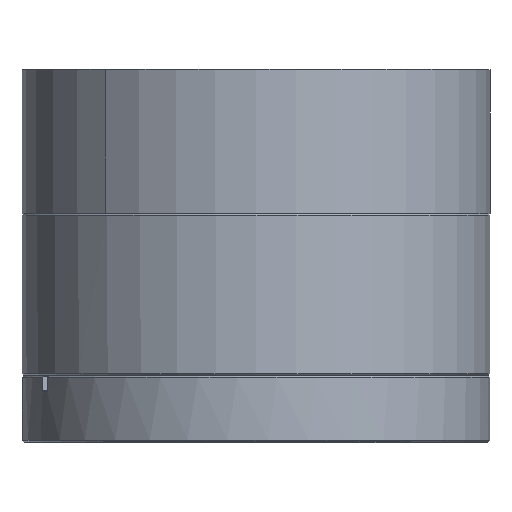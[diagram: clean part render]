
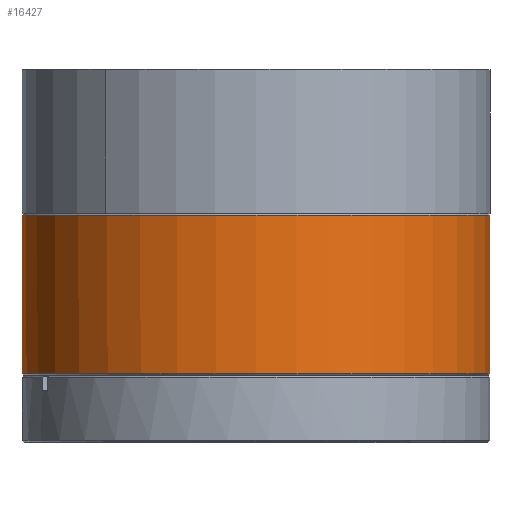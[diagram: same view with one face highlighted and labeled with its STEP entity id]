
A CAD part, top view. The second image highlights one B-rep face of the part: STEP entity #16427.
In plain terms, the highlighted cylindrical face has radius 65 mm (diameter 130 mm), a partial arc.
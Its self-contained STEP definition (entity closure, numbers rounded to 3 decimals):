
#689 = LINE ( 'NONE', #4444, #6066 ) ;
#883 = DIRECTION ( 'NONE',  ( 0., -1., 0. ) ) ;
#1120 = DIRECTION ( 'NONE',  ( 0., 0., 1. ) ) ;
#1178 = DIRECTION ( 'NONE',  ( 0., 1., 0. ) ) ;
#1267 = AXIS2_PLACEMENT_3D ( 'NONE', #3022, #8531, #13120 ) ;
#1291 = DIRECTION ( 'NONE',  ( 0., 0., -1. ) ) ;
#1527 = CARTESIAN_POINT ( 'NONE',  ( 64.992, 0.5, 1. ) ) ;
#2496 = ORIENTED_EDGE ( 'NONE', *, *, #2634, .T. ) ;
#2634 = EDGE_CURVE ( 'NONE', #12306, #9614, #13942, .T. ) ;
#2666 = CARTESIAN_POINT ( 'NONE',  ( 64.992, 0.5, -1. ) ) ;
#3022 = CARTESIAN_POINT ( 'NONE',  ( 0., 1., 0. ) ) ;
#3131 = CARTESIAN_POINT ( 'NONE',  ( -25., 44.5, -60. ) ) ;
#3460 = DIRECTION ( 'NONE',  ( 0., 0., 1. ) ) ;
#3638 = DIRECTION ( 'NONE',  ( 0., 1., 0. ) ) ;
#3706 = CARTESIAN_POINT ( 'NONE',  ( 25., 0., -60. ) ) ;
#3803 = CARTESIAN_POINT ( 'NONE',  ( 0., 0.5, 0. ) ) ;
#3828 = VERTEX_POINT ( 'NONE', #17229 ) ;
#3869 = CIRCLE ( 'NONE', #8178, 65. ) ;
#3893 = FACE_OUTER_BOUND ( 'NONE', #10221, .T. ) ;
#3912 = CARTESIAN_POINT ( 'NONE',  ( 0., 45., 0. ) ) ;
#3978 = CARTESIAN_POINT ( 'NONE',  ( 0., 0.5, 0. ) ) ;
#4444 = CARTESIAN_POINT ( 'NONE',  ( -25., 0., -60. ) ) ;
#4452 = EDGE_CURVE ( 'NONE', #14381, #13808, #9751, .T. ) ;
#4533 = CARTESIAN_POINT ( 'NONE',  ( 0., 0.5, 0. ) ) ;
#5447 = CARTESIAN_POINT ( 'NONE',  ( 64.992, 1., -1. ) ) ;
#5540 = CIRCLE ( 'NONE', #7346, 65. ) ;
#5630 = LINE ( 'NONE', #13728, #10784 ) ;
#5636 = CARTESIAN_POINT ( 'NONE',  ( 0., 44.5, 0. ) ) ;
#5774 = ORIENTED_EDGE ( 'NONE', *, *, #8973, .T. ) ;
#5790 = CIRCLE ( 'NONE', #10205, 65. ) ;
#6066 = VECTOR ( 'NONE', #7079, 1000. ) ;
#7012 = DIRECTION ( 'NONE',  ( 0., 0., 1. ) ) ;
#7079 = DIRECTION ( 'NONE',  ( 0., 1., 0. ) ) ;
#7105 = EDGE_CURVE ( 'NONE', #13808, #15011, #3869, .T. ) ;
#7260 = EDGE_CURVE ( 'NONE', #10481, #17739, #16771, .T. ) ;
#7346 = AXIS2_PLACEMENT_3D ( 'NONE', #4533, #3638, #3460 ) ;
#7372 = VECTOR ( 'NONE', #11824, 1000. ) ;
#7797 = EDGE_CURVE ( 'NONE', #10481, #3828, #15261, .T. ) ;
#8005 = CYLINDRICAL_SURFACE ( 'NONE', #16740, 65. ) ;
#8178 = AXIS2_PLACEMENT_3D ( 'NONE', #5636, #15257, #7012 ) ;
#8454 = AXIS2_PLACEMENT_3D ( 'NONE', #3978, #9357, #1120 ) ;
#8531 = DIRECTION ( 'NONE',  ( 0., -1., 0. ) ) ;
#8973 = EDGE_CURVE ( 'NONE', #12344, #12306, #5540, .T. ) ;
#9136 = CARTESIAN_POINT ( 'NONE',  ( 64.992, 45., -1. ) ) ;
#9357 = DIRECTION ( 'NONE',  ( 0., 1., 0. ) ) ;
#9501 = CARTESIAN_POINT ( 'NONE',  ( 25., 44.5, -60. ) ) ;
#9614 = VERTEX_POINT ( 'NONE', #1527 ) ;
#9751 = LINE ( 'NONE', #3706, #7372 ) ;
#10205 = AXIS2_PLACEMENT_3D ( 'NONE', #3803, #1178, #17680 ) ;
#10221 = EDGE_LOOP ( 'NONE', ( #15770, #17093, #10809, #16971, #11111, #15374, #5774, #2496, #10591 ) ) ;
#10481 = VERTEX_POINT ( 'NONE', #5447 ) ;
#10591 = ORIENTED_EDGE ( 'NONE', *, *, #16603, .T. ) ;
#10784 = VECTOR ( 'NONE', #11186, 1000. ) ;
#10809 = ORIENTED_EDGE ( 'NONE', *, *, #17737, .T. ) ;
#11111 = ORIENTED_EDGE ( 'NONE', *, *, #7105, .T. ) ;
#11186 = DIRECTION ( 'NONE',  ( 0., 1., 0. ) ) ;
#11704 = EDGE_CURVE ( 'NONE', #12344, #15011, #689, .T. ) ;
#11824 = DIRECTION ( 'NONE',  ( 0., 1., 0. ) ) ;
#12306 = VERTEX_POINT ( 'NONE', #12864 ) ;
#12344 = VERTEX_POINT ( 'NONE', #16881 ) ;
#12864 = CARTESIAN_POINT ( 'NONE',  ( 0., 0.5, 65. ) ) ;
#13120 = DIRECTION ( 'NONE',  ( 0., 0., -1. ) ) ;
#13660 = DIRECTION ( 'NONE',  ( 0., -1., 0. ) ) ;
#13728 = CARTESIAN_POINT ( 'NONE',  ( 64.992, 45., 1. ) ) ;
#13808 = VERTEX_POINT ( 'NONE', #9501 ) ;
#13942 = CIRCLE ( 'NONE', #8454, 65. ) ;
#14381 = VERTEX_POINT ( 'NONE', #15979 ) ;
#15011 = VERTEX_POINT ( 'NONE', #3131 ) ;
#15257 = DIRECTION ( 'NONE',  ( 0., -1., 0. ) ) ;
#15261 = CIRCLE ( 'NONE', #1267, 65. ) ;
#15374 = ORIENTED_EDGE ( 'NONE', *, *, #11704, .F. ) ;
#15770 = ORIENTED_EDGE ( 'NONE', *, *, #7797, .F. ) ;
#15979 = CARTESIAN_POINT ( 'NONE',  ( 25., 0.5, -60. ) ) ;
#16427 = ADVANCED_FACE ( 'NONE', ( #3893 ), #8005, .T. ) ;
#16603 = EDGE_CURVE ( 'NONE', #9614, #3828, #5630, .T. ) ;
#16740 = AXIS2_PLACEMENT_3D ( 'NONE', #3912, #13660, #1291 ) ;
#16771 = LINE ( 'NONE', #9136, #17634 ) ;
#16881 = CARTESIAN_POINT ( 'NONE',  ( -25., 0.5, -60. ) ) ;
#16971 = ORIENTED_EDGE ( 'NONE', *, *, #4452, .T. ) ;
#17093 = ORIENTED_EDGE ( 'NONE', *, *, #7260, .T. ) ;
#17229 = CARTESIAN_POINT ( 'NONE',  ( 64.992, 1., 1. ) ) ;
#17634 = VECTOR ( 'NONE', #883, 1000. ) ;
#17680 = DIRECTION ( 'NONE',  ( 0., 0., 1. ) ) ;
#17737 = EDGE_CURVE ( 'NONE', #17739, #14381, #5790, .T. ) ;
#17739 = VERTEX_POINT ( 'NONE', #2666 ) ;
